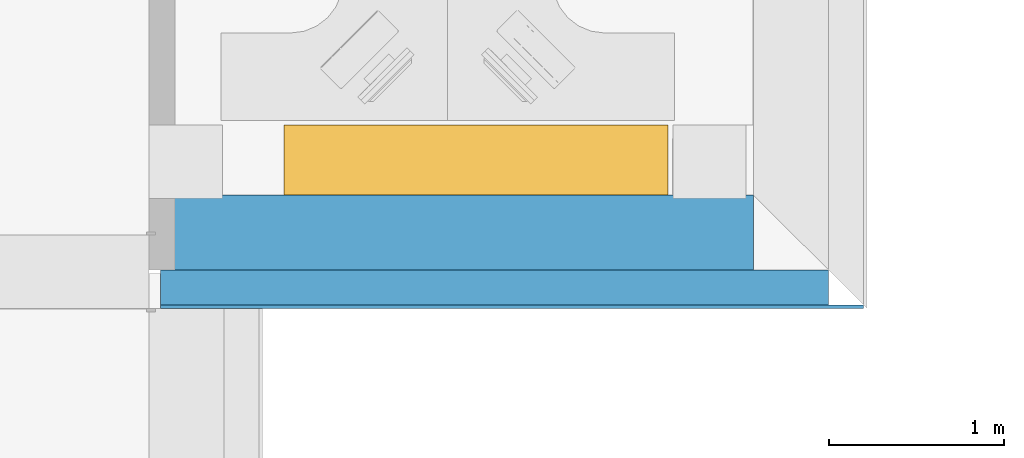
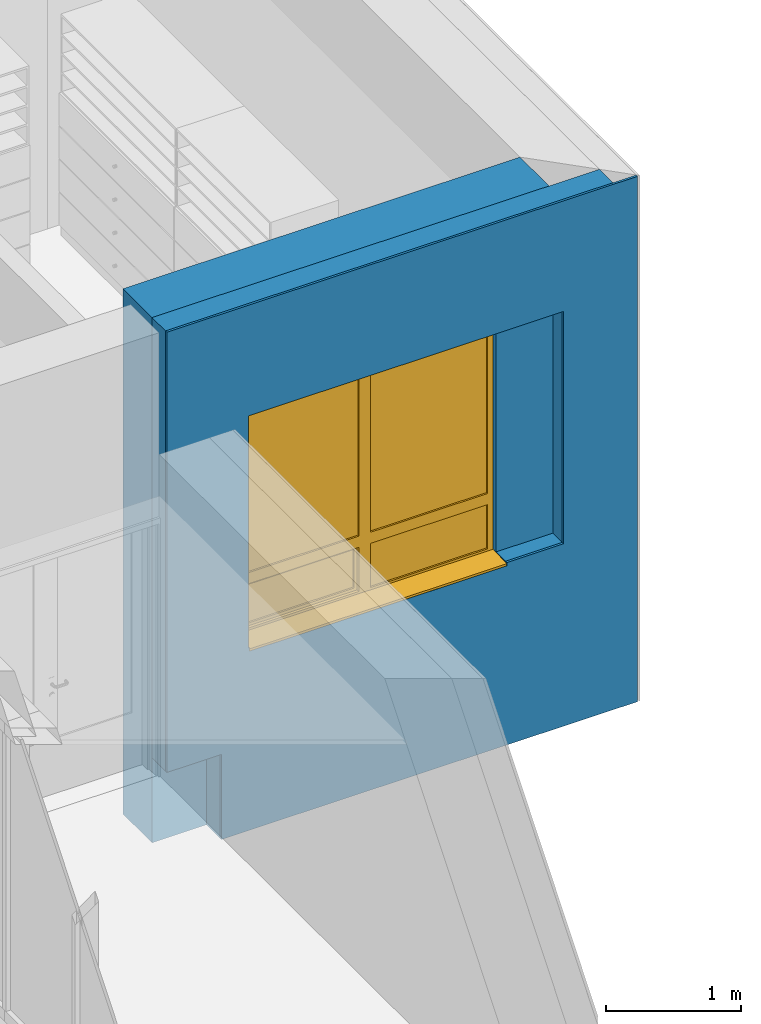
# One storey, part 95 of 194: 3 building element parts, 1 window, 1 opening, 1 element without a shape of its own.
"""IFC2X3 building model written with IfcOpenShell, lengths in millimetres."""

from ifc_helpers import new_model, entity, si_unit, converted_unit, derived_unit, money_unit, direction, frame, origin_with_axes, origin_2d_with_axis, place, context, subcontext, project, spatial, polyline, rectangle, outline, extrude, boolean, open_shell, faceted_brep, surface_model, material, type_object, element, fill, aggregate, save


model = new_model("IFC2X3")

# Units and contexts
model_context = context("Model", 3, precision=1e-05, world=origin_with_axes(), true_north=direction((0.0, 1.0)))
body_context = subcontext(model_context, "Body", "Model", "MODEL_VIEW")
ifc_project = project(units=[si_unit("LENGTHUNIT", "METRE", prefix="MILLI"), si_unit("AREAUNIT", "SQUARE_METRE"), si_unit("VOLUMEUNIT", "CUBIC_METRE"), converted_unit("PLANEANGLEUNIT", "DEGREE", entity("IfcPlaneAngleMeasure", 0.0174532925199), si_unit("PLANEANGLEUNIT", "RADIAN"), dimensions=[0, 0, 0, 0, 0, 0, 0]), si_unit("SOLIDANGLEUNIT", "STERADIAN"), money_unit("EUR"), converted_unit("TIMEUNIT", "Year", entity("IfcTimeMeasure", 31556926.0), si_unit("TIMEUNIT", "SECOND"), dimensions=[0, 0, 1, 0, 0, 0, 0]), si_unit("MASSUNIT", "GRAM", prefix="KILO"), si_unit("THERMODYNAMICTEMPERATUREUNIT", "DEGREE_CELSIUS"), si_unit("LUMINOUSINTENSITYUNIT", "LUMEN"), si_unit("ENERGYUNIT", "JOULE", prefix="MEGA"), derived_unit("THERMALCONDUCTANCEUNIT", [(si_unit("POWERUNIT", "WATT"), 1), (si_unit("LENGTHUNIT", "METRE"), -1), (si_unit("THERMODYNAMICTEMPERATUREUNIT", "KELVIN"), -1)]), derived_unit("SPECIFICHEATCAPACITYUNIT", [(si_unit("ENERGYUNIT", "JOULE"), 1), (si_unit("MASSUNIT", "GRAM", prefix="KILO"), -1), (si_unit("THERMODYNAMICTEMPERATUREUNIT", "KELVIN"), -1)]), derived_unit("MASSDENSITYUNIT", [(si_unit("MASSUNIT", "GRAM", prefix="KILO"), 1), (si_unit("VOLUMEUNIT", "CUBIC_METRE"), -1)])], contexts=[model_context])

# Site, building, storey
site_placement = place(None, origin_with_axes())
site = spatial("IfcSite", under=ifc_project, at=site_placement, Name="Site", CompositionType="ELEMENT")
building_placement = place(site_placement, origin_with_axes())
building = spatial("IfcBuilding", under=site, at=building_placement, Name="Building", CompositionType="ELEMENT")
storey_placement = place(building_placement, frame((0.0, 0.0, 3000.0), z_axis=(0.0, 0.0, 1.0), x_axis=(1.0, 0.0, 0.0)))
storey = spatial("IfcBuildingStorey", under=building, at=storey_placement, Name="2 KORRUS", CompositionType="ELEMENT", Elevation=3000.0)

# Window
window_style = type_object("IfcWindowStyle", Name="A5   2\xa0200×2\xa0100", ConstructionType="NOTDEFINED", OperationType="USERDEFINED", ParameterTakesPrecedence=False, Sizeable=False)
wall_placement = place(storey_placement, frame((39799.9396079, 58909.1628469, -769.162035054), z_axis=(0.0, 0.0, 1.0), x_axis=(0.999999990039, 0.000141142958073, 0.0)))
opening_placement = place(wall_placement, frame((1806.89041521, 0.0, 1619.16203505), z_axis=(0.0, 0.0, 1.0), x_axis=(1.0, 0.0, 0.0)))
window_placement = place(opening_placement, frame((-1100.0, 0.0, 0.0), z_axis=(0.0, 0.0, 1.0), x_axis=(1.0, 0.0, 0.0)))
window = element("IfcWindow", 1, at=window_placement, inside=storey, type_object=window_style, Name="välisaken * Double Window 22", OverallHeight=2100.0, OverallWidth=2200.0, context=body_context, shape_type="SurfaceModel", body=[
    faceted_brep([(2200.0, -220.0, 5.0), (2200.0, -20.0000000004, 5.0), (2200.0, -20.0000000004, 30.0), (2200.0, -220.0, 19.5184441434), (0.0, -19.9999999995, 5.0), (1.13686837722e-10, -220.0, 5.0), (0.0, -19.9999999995, 30.0), (1.13686837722e-10, -220.0, 19.5184441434)], [[[0, 1, 2, 3]], [[4, 1, 0, 5]], [[1, 4, 6, 2]], [[3, 2, 6, 7]], [[5, 0, 3, 7]], [[4, 5, 7, 6]]]),
    faceted_brep([(2200.0, -20.0000000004, 0.0), (2200.0, -20.0000000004, 5.0), (2200.0, -220.0, 5.0), (2200.0, -220.0, 0.0), (0.0, -19.9999999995, 0.0), (0.0, -19.9999999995, 5.0), (1.13686837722e-10, -220.0, 5.0), (1.13686837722e-10, -220.0, 0.0)], [[[0, 1, 2, 3]], [[4, 5, 1, 0]], [[1, 5, 6, 2]], [[3, 2, 6, 7]], [[0, 3, 7, 4]], [[7, 6, 5, 4]]]),
    faceted_brep([(1.13686837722e-10, 29.9999999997, 0.0), (1.13686837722e-10, 29.9999999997, 30.0), (1.13686837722e-10, 429.999999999, 30.0), (1.13686837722e-10, 429.999999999, 0.0), (2200.0, 29.9999999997, 0.0), (2200.0, 29.9999999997, 30.0), (2200.0, 430.0, 30.0), (2200.0, 829.999999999, 30.0), (1.13686837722e-10, 830.0, 30.0), (1.13686837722e-10, 830.0, 0.0), (2200.0, 829.999999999, 0.0), (2200.0, 430.0, 0.0)], [[[0, 1, 2, 3]], [[4, 5, 1, 0]], [[1, 5, 6, 7, 8, 2]], [[3, 2, 8, 9]], [[0, 3, 9, 10, 11, 4]], [[11, 6, 5, 4]], [[10, 7, 6, 11]], [[9, 8, 7, 10]]]),
    faceted_brep([(25.0, 29.9999999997, 475.0), (25.0, 29.9999999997, 50.0), (1.13686837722e-10, 29.9999999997, 50.0), (1.13686837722e-10, 29.9999999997, 2050.0), (50.0000000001, 29.9999999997, 2050.0), (50.0000000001, 29.9999999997, 550.0), (50.0000000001, 29.9999999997, 475.0), (25.0000000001, 5.00000000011, 475.0), (25.0000000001, 5.00000000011, 50.0), (50.0000000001, 5.00000000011, 50.0), (50.0000000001, -19.9999999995, 50.0), (0.0, -19.9999999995, 50.0), (0.0, -19.9999999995, 2050.0), (50.0000000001, -19.9999999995, 2050.0), (50.0000000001, -19.9999999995, 550.0), (50.0000000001, 5.00000000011, 475.0), (50.0000000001, -19.9999999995, 450.0), (50.0000000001, 5.00000000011, 450.0)], [[[0, 1, 2, 3, 4, 5, 6]], [[1, 0, 7, 8]], [[8, 9, 10, 11, 2, 1]], [[2, 11, 12, 3]], [[3, 12, 13, 4]], [[4, 13, 14, 5]], [[15, 6, 5, 14, 16, 17]], [[0, 6, 15, 7]], [[9, 8, 7, 15, 17]], [[9, 17, 16, 10]], [[11, 10, 16, 14, 13, 12]]]),
    faceted_brep([(1075.0, 29.9999999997, 50.0), (1075.0, 29.9999999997, 475.0), (1050.0, 30.0000000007, 475.0), (1050.0, 30.0000000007, 550.0), (1050.0, 30.0000000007, 2050.0), (1150.0, 29.9999999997, 2050.0), (1150.0, 29.9999999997, 550.0), (1150.0, 29.9999999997, 450.0), (1150.0, 29.9999999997, 50.0), (1075.0, 4.9999999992, 50.0), (1075.0, 4.9999999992, 475.0), (1050.0, 4.9999999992, 475.0), (1050.0, 4.9999999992, 450.0), (1050.0, -19.9999999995, 450.0), (1050.0, -19.9999999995, 550.0), (1050.0, -19.9999999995, 2050.0), (1150.0, -20.0000000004, 2050.0), (1150.0, -20.0000000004, 550.0), (1150.0, -20.0000000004, 450.0), (1150.0, -20.0000000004, 50.0), (1050.0, -19.9999999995, 50.0), (1050.0, 4.9999999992, 50.0)], [[[0, 1, 2, 3, 4, 5, 6, 7, 8]], [[1, 0, 9, 10]], [[11, 2, 1, 10]], [[11, 12, 13, 14, 3, 2]], [[3, 14, 15, 4]], [[4, 15, 16, 5]], [[5, 16, 17, 6]], [[6, 17, 18, 7]], [[7, 18, 19, 8]], [[9, 0, 8, 19, 20, 21]], [[12, 11, 10, 9, 21]], [[12, 21, 20, 13]], [[18, 17, 16, 15, 14, 13, 20, 19]]]),
    faceted_brep([(1050.0, 30.0000000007, 475.0), (50.0000000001, 29.9999999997, 475.0), (50.0000000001, 29.9999999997, 550.0), (1050.0, 30.0000000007, 550.0), (50.0000000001, 5.00000000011, 475.0), (1050.0, 4.9999999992, 475.0), (50.0000000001, 5.00000000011, 450.0), (50.0000000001, -19.9999999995, 450.0), (50.0000000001, -19.9999999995, 550.0), (1050.0, -19.9999999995, 550.0), (1050.0, -19.9999999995, 450.0), (1050.0, 4.9999999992, 450.0)], [[[0, 1, 2, 3]], [[4, 1, 0, 5]], [[4, 6, 7, 8, 2, 1]], [[2, 8, 9, 3]], [[5, 0, 3, 9, 10, 11]], [[6, 4, 5, 11]], [[6, 11, 10, 7]], [[10, 9, 8, 7]]]),
    faceted_brep([(50.0000000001, 5.00000000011, 50.0), (25.0000000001, 5.00000000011, 50.0), (25.0, 29.9999999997, 50.0), (1.13686837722e-10, 29.9999999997, 50.0), (0.0, -19.9999999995, 50.0), (50.0000000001, -19.9999999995, 50.0), (1050.0, 4.9999999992, 50.0), (1075.0, 4.9999999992, 50.0), (1075.0, 4.9999999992, 25.0), (25.0000000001, 5.00000000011, 25.0), (25.0, 29.9999999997, 25.0), (1075.0, 29.9999999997, 25.0), (1075.0, 29.9999999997, 50.0), (1150.0, 29.9999999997, 50.0), (2150.0, 29.9999999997, 50.0), (2200.0, 29.9999999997, 50.0), (2200.0, 29.9999999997, 0.0), (1.13686837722e-10, 29.9999999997, 0.0), (0.0, -19.9999999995, 0.0), (2200.0, -20.0000000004, 50.0), (2150.0, -20.0000000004, 50.0), (1150.0, -20.0000000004, 50.0), (1050.0, -19.9999999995, 50.0), (2200.0, -20.0000000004, 0.0)], [[[0, 1, 2, 3, 4, 5]], [[1, 0, 6, 7, 8, 9]], [[10, 2, 1, 9]], [[11, 12, 13, 14, 15, 16, 17, 3, 2, 10]], [[17, 18, 4, 3]], [[19, 20, 21, 22, 5, 4, 18, 23]], [[6, 0, 5, 22]], [[7, 6, 22, 21, 13, 12]], [[7, 12, 11, 8]], [[11, 10, 9, 8]], [[13, 21, 20, 14]], [[14, 20, 19, 15]], [[15, 19, 23, 16]], [[16, 23, 18, 17]]]),
    faceted_brep([(2150.0, -20.0000000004, 450.0), (2150.0, -20.0000000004, 550.0), (2150.0, 29.9999999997, 550.0), (2150.0, 29.9999999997, 450.0), (2150.0, -20.0000000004, 50.0), (2200.0, -20.0000000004, 50.0), (2200.0, -20.0000000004, 2050.0), (2150.0, -20.0000000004, 2050.0), (2150.0, 29.9999999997, 2050.0), (2200.0, 29.9999999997, 2050.0), (2200.0, 29.9999999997, 50.0), (2150.0, 29.9999999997, 50.0)], [[[0, 1, 2, 3]], [[0, 4, 5, 6, 7, 1]], [[1, 7, 8, 2]], [[3, 2, 8, 9, 10, 11]], [[4, 0, 3, 11]], [[5, 4, 11, 10]], [[6, 5, 10, 9]], [[7, 6, 9, 8]]]),
    faceted_brep([(1150.0, -20.0000000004, 450.0), (1150.0, -20.0000000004, 550.0), (1150.0, 29.9999999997, 550.0), (1150.0, 29.9999999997, 450.0), (2150.0, -20.0000000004, 450.0), (2150.0, -20.0000000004, 550.0), (2150.0, 29.9999999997, 550.0), (2150.0, 29.9999999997, 450.0)], [[[0, 1, 2, 3]], [[0, 4, 5, 1]], [[1, 5, 6, 2]], [[3, 2, 6, 7]], [[4, 0, 3, 7]], [[5, 4, 7, 6]]]),
    faceted_brep([(1150.0, -20.0000000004, 2050.0), (1050.0, -19.9999999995, 2050.0), (1050.0, 30.0000000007, 2050.0), (1150.0, 29.9999999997, 2050.0), (2150.0, -20.0000000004, 2050.0), (2200.0, -20.0000000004, 2050.0), (2200.0, -20.0000000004, 2100.0), (0.0, -19.9999999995, 2100.0), (0.0, -19.9999999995, 2050.0), (50.0000000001, -19.9999999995, 2050.0), (50.0000000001, 29.9999999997, 2050.0), (1.13686837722e-10, 29.9999999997, 2050.0), (1.13686837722e-10, 29.9999999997, 2100.0), (2200.0, 29.9999999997, 2100.0), (2200.0, 29.9999999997, 2050.0), (2150.0, 29.9999999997, 2050.0)], [[[0, 1, 2, 3]], [[0, 4, 5, 6, 7, 8, 9, 1]], [[1, 9, 10, 2]], [[3, 2, 10, 11, 12, 13, 14, 15]], [[4, 0, 3, 15]], [[5, 4, 15, 14]], [[6, 5, 14, 13]], [[7, 6, 13, 12]], [[8, 7, 12, 11]], [[9, 8, 11, 10]]]),
    surface_model("IfcShellBasedSurfaceModel", [(2150.0, -5.00000000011, 550.0), (2150.0, -5.00000000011, 2050.0), (1150.0, -5.00000000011, 2050.0), (1150.0, -5.00000000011, 550.0)], [open_shell([[[0, 1, 2, 3]]])]),
    surface_model("IfcShellBasedSurfaceModel", [(2150.0, 14.9999999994, 550.0), (1150.0, 15.0000000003, 550.0), (1150.0, 15.0000000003, 2050.0), (2150.0, 14.9999999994, 2050.0)], [open_shell([[[0, 1, 2, 3]]])]),
    surface_model("IfcShellBasedSurfaceModel", [(1050.0, -5.00000000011, 550.0), (1050.0, -5.00000000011, 2050.0), (50.0, -5.00000000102, 2050.0), (50.0, -5.00000000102, 550.0)], [open_shell([[[0, 1, 2, 3]]])]),
    surface_model("IfcShellBasedSurfaceModel", [(1050.0, 14.9999999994, 550.0), (50.0000000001, 14.9999999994, 550.0), (50.0000000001, 14.9999999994, 2050.0), (1050.0, 14.9999999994, 2050.0)], [open_shell([[[0, 1, 2, 3]]])]),
    surface_model("IfcShellBasedSurfaceModel", [(2150.0, -5.00000000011, 50.0), (2150.0, -5.00000000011, 450.0), (1150.0, -5.00000000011, 450.0), (1150.0, -5.00000000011, 50.0)], [open_shell([[[0, 1, 2, 3]]])]),
    surface_model("IfcShellBasedSurfaceModel", [(2150.0, 14.9999999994, 50.0), (1150.0, 15.0000000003, 50.0), (1150.0, 15.0000000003, 450.0), (2150.0, 14.9999999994, 450.0)], [open_shell([[[0, 1, 2, 3]]])]),
    faceted_brep([(1025.0, 4.9999999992, 425.0), (1075.0, 4.9999999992, 425.0), (1075.0, 55.0000000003, 425.0), (1025.0, 54.9999999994, 425.0), (1025.0, 4.9999999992, 75.0), (1075.0, 4.9999999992, 75.0), (1075.0, 55.0000000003, 75.0), (1025.0, 54.9999999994, 75.0)], [[[0, 1, 2, 3]], [[0, 4, 5, 1]], [[1, 5, 6, 2]], [[3, 2, 6, 7]], [[4, 0, 3, 7]], [[5, 4, 7, 6]]]),
    faceted_brep([(75.0, 5.00000000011, 75.0), (25.0000000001, 5.00000000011, 75.0), (25.0000000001, 54.9999999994, 75.0), (75.0, 54.9999999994, 75.0), (75.0, 5.00000000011, 425.0), (25.0000000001, 5.00000000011, 425.0), (25.0000000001, 54.9999999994, 425.0), (75.0, 54.9999999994, 425.0)], [[[0, 1, 2, 3]], [[0, 4, 5, 1]], [[1, 5, 6, 2]], [[3, 2, 6, 7]], [[4, 0, 3, 7]], [[5, 4, 7, 6]]]),
    faceted_brep([(25.0000000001, 5.00000000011, 25.0), (25.0000000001, 5.00000000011, 75.0), (25.0000000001, 54.9999999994, 75.0), (25.0000000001, 54.9999999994, 25.0), (1075.0, 4.9999999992, 25.0), (1075.0, 4.9999999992, 75.0), (1025.0, 4.9999999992, 75.0), (75.0, 5.00000000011, 75.0), (75.0, 54.9999999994, 75.0), (1025.0, 54.9999999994, 75.0), (1075.0, 55.0000000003, 75.0), (1075.0, 55.0000000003, 25.0)], [[[0, 1, 2, 3]], [[0, 4, 5, 6, 7, 1]], [[1, 7, 8, 2]], [[3, 2, 8, 9, 10, 11]], [[4, 0, 3, 11]], [[5, 4, 11, 10]], [[6, 5, 10, 9]], [[7, 6, 9, 8]]]),
    faceted_brep([(1075.0, 4.9999999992, 475.0), (1075.0, 4.9999999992, 425.0), (1075.0, 55.0000000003, 425.0), (1075.0, 55.0000000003, 475.0), (25.0000000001, 5.00000000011, 475.0), (25.0000000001, 5.00000000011, 425.0), (75.0, 5.00000000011, 425.0), (1025.0, 4.9999999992, 425.0), (1025.0, 54.9999999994, 425.0), (75.0, 54.9999999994, 425.0), (25.0000000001, 54.9999999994, 425.0), (25.0000000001, 54.9999999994, 475.0)], [[[0, 1, 2, 3]], [[0, 4, 5, 6, 7, 1]], [[1, 7, 8, 2]], [[3, 2, 8, 9, 10, 11]], [[4, 0, 3, 11]], [[5, 4, 11, 10]], [[6, 5, 10, 9]], [[7, 6, 9, 8]]]),
    surface_model("IfcShellBasedSurfaceModel", [(1025.0, 19.9999999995, 75.0), (1025.0, 19.9999999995, 425.0), (75.0, 20.0000000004, 425.0), (75.0, 20.0000000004, 75.0)], [open_shell([[[0, 1, 2, 3]]])]),
    surface_model("IfcShellBasedSurfaceModel", [(1025.0, 40.0, 75.0), (75.0, 40.0000000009, 75.0), (75.0, 40.0000000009, 425.0), (1025.0, 40.0, 425.0)], [open_shell([[[0, 1, 2, 3]]])]),
])

# Wall, opening
wall_type = type_object("IfcWallType", Name="VS4", PredefinedType="NOTDEFINED")
wall = element("IfcWall", 2, at=wall_placement, inside=storey, type_object=wall_type, Name="VS4")
opening = element("IfcOpeningElement", 3, at=opening_placement, cuts=wall, Name="välisaken * Double Window 22", context=body_context, shape_type="SweptSolid", body=[
    extrude(rectangle(XDim=2200.0, YDim=2100.0, at=origin_2d_with_axis()), frame((1.13686837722e-10, -20.0000000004, 1050.0), z_axis=(0.0, 1.0, 0.0), x_axis=(-1.0, 0.0, 0.0)), (0.0, 0.0, 1.0), 1100.0),
    extrude(rectangle(XDim=2200.0, YDim=2100.0, at=origin_2d_with_axis()), frame((1.13686837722e-10, -20.0000000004, 1050.0), z_axis=(0.0, -1.0, 0.0), x_axis=(-1.0, 0.0, 0.0)), (0.0, 0.0, 1.0), 850.000000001),
])

fill(opening, window)

# Building element part
ifc_material_1 = material(Name="Tellis - Konstuktsioon")
building_element_part_1_placement = place(wall_placement, origin_with_axes())
building_element_part_1 = element("IfcBuildingElementPart", 4, at=building_element_part_1_placement, material=ifc_material_1, Name="Tellis - Konstuktsioon", context=body_context, shape_type="CSG", body=[
    boolean("DIFFERENCE", boolean("DIFFERENCE", boolean("DIFFERENCE", boolean("DIFFERENCE", boolean("DIFFERENCE", boolean("DIFFERENCE", boolean("DIFFERENCE", extrude(outline(polyline([(0.0, 0.0), (4046.17936412, 0.0), (4046.17936412, 429.999999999), (0.0, 430.0), (0.0, 0.0)])), origin_with_axes(), (0.0, 0.0, 1.0), 4749.16203505), faceted_brep([(3395.99367763, 429.999999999, 4749.16203505), (3396.11649885, 0.0, 4749.16203505), (4046.17936412, 0.0, 4749.16203505), (4046.17936412, 429.999999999, 4749.16203505), (3396.11649885, 0.0, 0.0), (3395.99367763, 429.999999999, 0.0), (4046.17936412, 0.0, 0.0), (4046.17936412, 429.999999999, 0.0)], [[[0, 1, 2, 3]], [[4, 1, 0, 5]], [[1, 4, 6, 2]], [[2, 6, 7, 3]], [[5, 0, 3, 7]], [[4, 5, 7, 6]]])), faceted_brep([(465.869532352, -200.000000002, 769.162035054), (0.0, -200.000000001, 769.162035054), (0.0, -200.000000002, 0.0), (465.869532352, -200.000000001, 0.0), (465.627717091, 0.0, 769.162035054), (0.0, 0.0, 769.162035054), (0.0, 0.0, 0.0), (465.627717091, 0.0, 0.0)], [[[0, 1, 2, 3]], [[4, 5, 1, 0]], [[1, 5, 6, 2]], [[7, 3, 2, 6]], [[3, 7, 4, 0]], [[4, 7, 6, 5]]])), faceted_brep([(698.571402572, -200.000000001, 1649.16203505), (3392.5866956, -200.000000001, 1649.16203505), (3392.5866956, -200.000000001, 3749.16203505), (698.571402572, -200.000000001, 3749.16203505), (698.591021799, -60.9974835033, 1649.16203505), (3392.60626116, -61.3777247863, 1649.16203505), (3392.60626116, -61.3777247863, 3749.16203505), (698.591021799, -60.9974835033, 3749.16203505)], [[[0, 1, 2, 3]], [[1, 0, 4, 5]], [[2, 1, 5, 6]], [[3, 2, 6, 7]], [[0, 3, 7, 4]], [[5, 4, 7, 6]]])), faceted_brep([(3826.11651639, 0.0, 4749.16203505), (3826.17364253, -200.000000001, 4749.16203505), (4046.17936412, -200.000000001, 4749.16203505), (4046.17936412, 0.0, 4749.16203505), (3826.17364253, -200.000000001, 0.0), (3826.11651639, 0.0, 0.0), (4046.17936412, -200.000000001, 0.0), (4046.17936412, 0.0, 0.0)], [[[0, 1, 2, 3]], [[4, 1, 0, 5]], [[1, 4, 6, 2]], [[2, 6, 7, 3]], [[5, 0, 3, 7]], [[4, 5, 7, 6]]])), faceted_brep([(465.893713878, -220.0, 769.162035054), (1.13686837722e-10, -220.0, 769.162035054), (2.27373675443e-10, -220.000000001, 0.0), (465.893713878, -220.0, 0.0), (465.869532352, -200.000000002, 769.162035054), (0.0, -200.000000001, 769.162035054), (0.0, -200.000000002, 0.0), (465.869532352, -200.000000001, 0.0)], [[[0, 1, 2, 3]], [[1, 0, 4, 5]], [[1, 5, 6, 2]], [[7, 3, 2, 6]], [[0, 3, 7, 4]], [[4, 7, 6, 5]]])), faceted_brep([(698.568579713, -219.999999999, 1649.16203505), (3392.58387275, -219.999999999, 1649.16203505), (3392.58387275, -219.999999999, 3749.16203505), (698.568579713, -219.999999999, 3749.16203505), (698.571402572, -200.000000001, 1649.16203505), (3392.5866956, -200.000000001, 1649.16203505), (3392.5866956, -200.000000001, 3749.16203505), (698.571402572, -200.000000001, 3749.16203505)], [[[0, 1, 2, 3]], [[4, 5, 1, 0]], [[5, 6, 2, 1]], [[6, 7, 3, 2]], [[7, 4, 0, 3]], [[4, 7, 6, 5]]])), faceted_brep([(4026.17365069, -200.000000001, 0.0), (4026.17365069, -200.000000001, 4749.16203505), (4046.17936412, -200.000000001, 4749.16203505), (4046.17936412, -200.000000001, 0.0), (4026.1793633, -220.0, 4749.16203505), (4026.1793633, -220.0, 0.0), (4046.17936412, -220.0, 4749.16203505), (4046.17936412, -220.0, 0.0)], [[[0, 1, 2, 3]], [[4, 1, 0, 5]], [[1, 4, 6, 2]], [[6, 7, 3, 2]], [[5, 0, 3, 7]], [[4, 5, 7, 6]]])),
])

ifc_material_2 = material(Name="Soojustus - Plastik Kõva")
building_element_part_2_placement = place(wall_placement, origin_with_axes())
building_element_part_2 = element("IfcBuildingElementPart", 5, at=building_element_part_2_placement, material=ifc_material_2, Name="Soojustus - Plastik Kõva", context=body_context, shape_type="CSG", body=[
    boolean("DIFFERENCE", boolean("DIFFERENCE", boolean("DIFFERENCE", boolean("DIFFERENCE", boolean("DIFFERENCE", boolean("DIFFERENCE", boolean("DIFFERENCE", extrude(outline(polyline([(0.0, -200.000000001), (4046.17936412, -200.000000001), (4046.17936412, 0.0), (0.0, 0.0), (0.0, -200.000000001)])), origin_with_axes(), (0.0, 0.0, 1.0), 4749.16203505), faceted_brep([(3395.99367763, 429.999999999, 4749.16203505), (3396.11649885, 0.0, 4749.16203505), (4046.17936412, 0.0, 4749.16203505), (4046.17936412, 429.999999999, 4749.16203505), (3396.11649885, 0.0, 0.0), (3395.99367763, 429.999999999, 0.0), (4046.17936412, 0.0, 0.0), (4046.17936412, 429.999999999, 0.0)], [[[0, 1, 2, 3]], [[4, 1, 0, 5]], [[1, 4, 6, 2]], [[2, 6, 7, 3]], [[5, 0, 3, 7]], [[4, 5, 7, 6]]])), faceted_brep([(465.869532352, -200.000000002, 769.162035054), (0.0, -200.000000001, 769.162035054), (0.0, -200.000000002, 0.0), (465.869532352, -200.000000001, 0.0), (465.627717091, 0.0, 769.162035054), (0.0, 0.0, 769.162035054), (0.0, 0.0, 0.0), (465.627717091, 0.0, 0.0)], [[[0, 1, 2, 3]], [[4, 5, 1, 0]], [[1, 5, 6, 2]], [[7, 3, 2, 6]], [[3, 7, 4, 0]], [[4, 7, 6, 5]]])), faceted_brep([(698.571402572, -200.000000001, 1649.16203505), (3392.5866956, -200.000000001, 1649.16203505), (3392.5866956, -200.000000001, 3749.16203505), (698.571402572, -200.000000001, 3749.16203505), (698.591021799, -60.9974835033, 1649.16203505), (3392.60626116, -61.3777247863, 1649.16203505), (3392.60626116, -61.3777247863, 3749.16203505), (698.591021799, -60.9974835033, 3749.16203505)], [[[0, 1, 2, 3]], [[1, 0, 4, 5]], [[2, 1, 5, 6]], [[3, 2, 6, 7]], [[0, 3, 7, 4]], [[5, 4, 7, 6]]])), faceted_brep([(3826.11651639, 0.0, 4749.16203505), (3826.17364253, -200.000000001, 4749.16203505), (4046.17936412, -200.000000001, 4749.16203505), (4046.17936412, 0.0, 4749.16203505), (3826.17364253, -200.000000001, 0.0), (3826.11651639, 0.0, 0.0), (4046.17936412, -200.000000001, 0.0), (4046.17936412, 0.0, 0.0)], [[[0, 1, 2, 3]], [[4, 1, 0, 5]], [[1, 4, 6, 2]], [[2, 6, 7, 3]], [[5, 0, 3, 7]], [[4, 5, 7, 6]]])), faceted_brep([(465.893713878, -220.0, 769.162035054), (1.13686837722e-10, -220.0, 769.162035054), (2.27373675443e-10, -220.000000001, 0.0), (465.893713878, -220.0, 0.0), (465.869532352, -200.000000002, 769.162035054), (0.0, -200.000000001, 769.162035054), (0.0, -200.000000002, 0.0), (465.869532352, -200.000000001, 0.0)], [[[0, 1, 2, 3]], [[1, 0, 4, 5]], [[1, 5, 6, 2]], [[7, 3, 2, 6]], [[0, 3, 7, 4]], [[4, 7, 6, 5]]])), faceted_brep([(698.568579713, -219.999999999, 1649.16203505), (3392.58387275, -219.999999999, 1649.16203505), (3392.58387275, -219.999999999, 3749.16203505), (698.568579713, -219.999999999, 3749.16203505), (698.571402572, -200.000000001, 1649.16203505), (3392.5866956, -200.000000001, 1649.16203505), (3392.5866956, -200.000000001, 3749.16203505), (698.571402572, -200.000000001, 3749.16203505)], [[[0, 1, 2, 3]], [[4, 5, 1, 0]], [[5, 6, 2, 1]], [[6, 7, 3, 2]], [[7, 4, 0, 3]], [[4, 7, 6, 5]]])), faceted_brep([(4026.17365069, -200.000000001, 0.0), (4026.17365069, -200.000000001, 4749.16203505), (4046.17936412, -200.000000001, 4749.16203505), (4046.17936412, -200.000000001, 0.0), (4026.1793633, -220.0, 4749.16203505), (4026.1793633, -220.0, 0.0), (4046.17936412, -220.0, 4749.16203505), (4046.17936412, -220.0, 0.0)], [[[0, 1, 2, 3]], [[4, 1, 0, 5]], [[1, 4, 6, 2]], [[6, 7, 3, 2]], [[5, 0, 3, 7]], [[4, 5, 7, 6]]])),
])

ifc_material_3 = material(Name="Tellis - Viimistlus")
building_element_part_3_placement = place(wall_placement, origin_with_axes())
building_element_part_3 = element("IfcBuildingElementPart", 6, at=building_element_part_3_placement, material=ifc_material_3, Name="Tellis - Viimistlus", context=body_context, shape_type="CSG", body=[
    boolean("DIFFERENCE", boolean("DIFFERENCE", boolean("DIFFERENCE", boolean("DIFFERENCE", boolean("DIFFERENCE", boolean("DIFFERENCE", boolean("DIFFERENCE", extrude(outline(polyline([(1.13686837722e-10, -220.0), (4046.17936412, -220.0), (4046.17936412, -200.000000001), (0.0, -200.000000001), (1.13686837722e-10, -220.0)])), origin_with_axes(), (0.0, 0.0, 1.0), 4749.16203505), faceted_brep([(3395.99367763, 429.999999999, 4749.16203505), (3396.11649885, 0.0, 4749.16203505), (4046.17936412, 0.0, 4749.16203505), (4046.17936412, 429.999999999, 4749.16203505), (3396.11649885, 0.0, 0.0), (3395.99367763, 429.999999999, 0.0), (4046.17936412, 0.0, 0.0), (4046.17936412, 429.999999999, 0.0)], [[[0, 1, 2, 3]], [[4, 1, 0, 5]], [[1, 4, 6, 2]], [[2, 6, 7, 3]], [[5, 0, 3, 7]], [[4, 5, 7, 6]]])), faceted_brep([(465.869532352, -200.000000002, 769.162035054), (0.0, -200.000000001, 769.162035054), (0.0, -200.000000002, 0.0), (465.869532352, -200.000000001, 0.0), (465.627717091, 0.0, 769.162035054), (0.0, 0.0, 769.162035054), (0.0, 0.0, 0.0), (465.627717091, 0.0, 0.0)], [[[0, 1, 2, 3]], [[4, 5, 1, 0]], [[1, 5, 6, 2]], [[7, 3, 2, 6]], [[3, 7, 4, 0]], [[4, 7, 6, 5]]])), faceted_brep([(698.571402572, -200.000000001, 1649.16203505), (3392.5866956, -200.000000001, 1649.16203505), (3392.5866956, -200.000000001, 3749.16203505), (698.571402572, -200.000000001, 3749.16203505), (698.591021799, -60.9974835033, 1649.16203505), (3392.60626116, -61.3777247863, 1649.16203505), (3392.60626116, -61.3777247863, 3749.16203505), (698.591021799, -60.9974835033, 3749.16203505)], [[[0, 1, 2, 3]], [[1, 0, 4, 5]], [[2, 1, 5, 6]], [[3, 2, 6, 7]], [[0, 3, 7, 4]], [[5, 4, 7, 6]]])), faceted_brep([(3826.11651639, 0.0, 4749.16203505), (3826.17364253, -200.000000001, 4749.16203505), (4046.17936412, -200.000000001, 4749.16203505), (4046.17936412, 0.0, 4749.16203505), (3826.17364253, -200.000000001, 0.0), (3826.11651639, 0.0, 0.0), (4046.17936412, -200.000000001, 0.0), (4046.17936412, 0.0, 0.0)], [[[0, 1, 2, 3]], [[4, 1, 0, 5]], [[1, 4, 6, 2]], [[2, 6, 7, 3]], [[5, 0, 3, 7]], [[4, 5, 7, 6]]])), faceted_brep([(465.893713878, -220.0, 769.162035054), (1.13686837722e-10, -220.0, 769.162035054), (2.27373675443e-10, -220.000000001, 0.0), (465.893713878, -220.0, 0.0), (465.869532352, -200.000000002, 769.162035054), (0.0, -200.000000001, 769.162035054), (0.0, -200.000000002, 0.0), (465.869532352, -200.000000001, 0.0)], [[[0, 1, 2, 3]], [[1, 0, 4, 5]], [[1, 5, 6, 2]], [[7, 3, 2, 6]], [[0, 3, 7, 4]], [[4, 7, 6, 5]]])), faceted_brep([(698.568579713, -219.999999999, 1649.16203505), (3392.58387275, -219.999999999, 1649.16203505), (3392.58387275, -219.999999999, 3749.16203505), (698.568579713, -219.999999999, 3749.16203505), (698.571402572, -200.000000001, 1649.16203505), (3392.5866956, -200.000000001, 1649.16203505), (3392.5866956, -200.000000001, 3749.16203505), (698.571402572, -200.000000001, 3749.16203505)], [[[0, 1, 2, 3]], [[4, 5, 1, 0]], [[5, 6, 2, 1]], [[6, 7, 3, 2]], [[7, 4, 0, 3]], [[4, 7, 6, 5]]])), faceted_brep([(4026.17365069, -200.000000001, 0.0), (4026.17365069, -200.000000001, 4749.16203505), (4046.17936412, -200.000000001, 4749.16203505), (4046.17936412, -200.000000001, 0.0), (4026.1793633, -220.0, 4749.16203505), (4026.1793633, -220.0, 0.0), (4046.17936412, -220.0, 4749.16203505), (4046.17936412, -220.0, 0.0)], [[[0, 1, 2, 3]], [[4, 1, 0, 5]], [[1, 4, 6, 2]], [[6, 7, 3, 2]], [[5, 0, 3, 7]], [[4, 5, 7, 6]]])),
])

aggregate(wall, [building_element_part_1, building_element_part_2, building_element_part_3])

save(model, "model.ifc")
